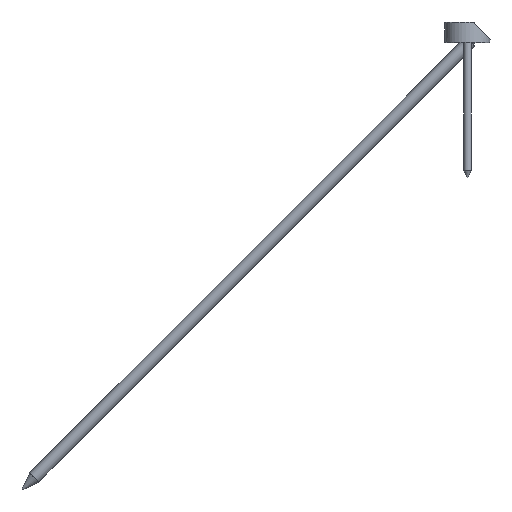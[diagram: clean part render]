
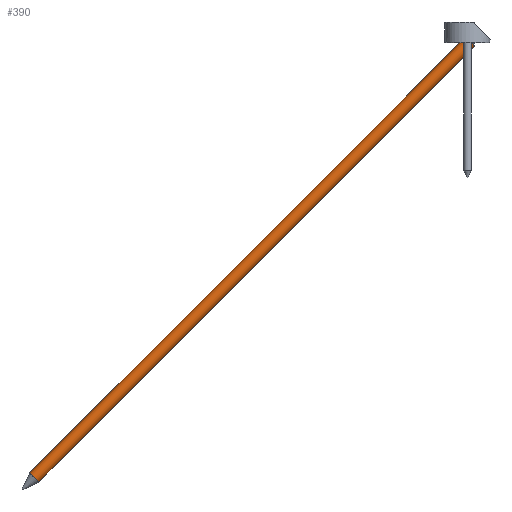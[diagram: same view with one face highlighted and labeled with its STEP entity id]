
A CAD part, left-side view. The second image highlights one B-rep face of the part: STEP entity #390.
In plain terms, the highlighted cylindrical face has radius 5 mm (diameter 10 mm), a full revolution.
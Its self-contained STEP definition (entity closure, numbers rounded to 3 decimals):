
#59=CYLINDRICAL_SURFACE('',#480,5.);
#91=CIRCLE('',#479,5.);
#92=CIRCLE('',#481,5.);
#165=ORIENTED_EDGE('',*,*,#206,.T.);
#166=ORIENTED_EDGE('',*,*,#205,.F.);
#205=EDGE_CURVE('',#238,#238,#91,.T.);
#206=EDGE_CURVE('',#239,#239,#92,.T.);
#238=VERTEX_POINT('',#733);
#239=VERTEX_POINT('',#736);
#297=EDGE_LOOP('',(#165));
#298=EDGE_LOOP('',(#166));
#350=FACE_BOUND('',#297,.T.);
#351=FACE_BOUND('',#298,.T.);
#390=ADVANCED_FACE('',(#350,#351),#59,.T.);
#479=AXIS2_PLACEMENT_3D('',#732,#602,#603);
#480=AXIS2_PLACEMENT_3D('',#734,#604,#605);
#481=AXIS2_PLACEMENT_3D('',#735,#606,#607);
#602=DIRECTION('',(0.,1.,0.));
#603=DIRECTION('',(0.,0.,1.));
#604=DIRECTION('',(0.,1.,0.));
#605=DIRECTION('',(0.,0.,1.));
#606=DIRECTION('',(0.,1.,0.));
#607=DIRECTION('',(0.,0.,1.));
#732=CARTESIAN_POINT('',(0.,42.,0.));
#733=CARTESIAN_POINT('',(0.,42.,5.));
#734=CARTESIAN_POINT('',(0.,54.,0.));
#735=CARTESIAN_POINT('',(0.,-433.,0.));
#736=CARTESIAN_POINT('',(0.,-433.,5.));
